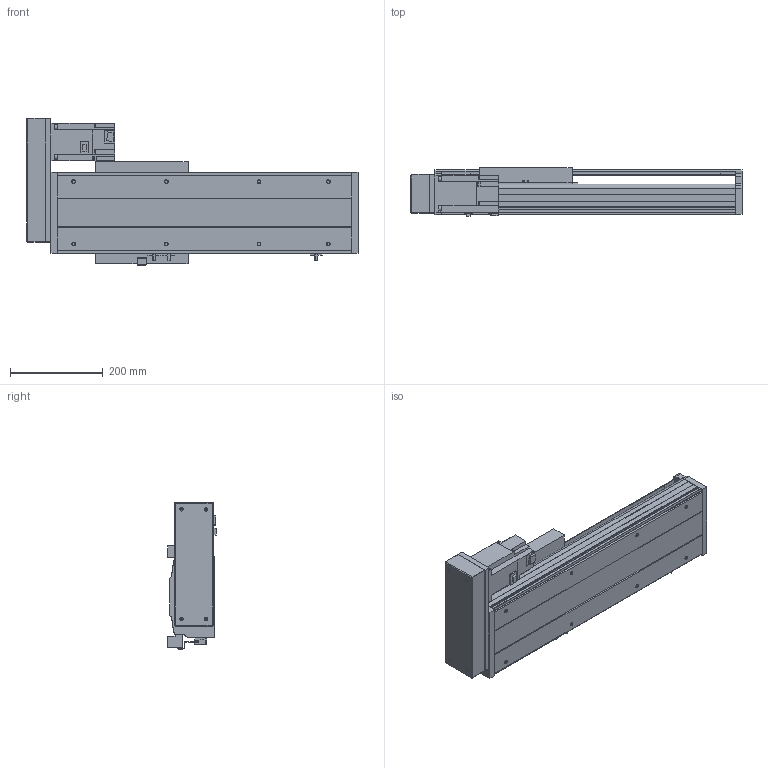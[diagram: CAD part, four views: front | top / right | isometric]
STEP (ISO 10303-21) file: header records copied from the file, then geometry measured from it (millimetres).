
FILE_DESCRIPTION(/* description */ ('STEP AP214'),/* implementation_level */ '2;1');
FILE_NAME(/* name */ 'PSS200-L10-S300-BL-T75-C1-N(0)',/* time_stamp */ '2022-06-06T04:49:44+02:00',/* author */ ('License CC BY-ND 4.0'),/* organization */ ('CADENAS'),/* preprocessor_version */ 'ST-DEVELOPER v18.102',/* originating_system */ 'PARTsolutions',/* authorisation */ ' ');
FILE_SCHEMA (('AUTOMOTIVE_DESIGN {1 0 10303 214 3 1 1}'));
Length unit declared in the file: millimetre
Products named in the file (8): PSS200-L10-S300-BL-T75-C1-N(0); PSS200-S300-BL-N_S; T75-p1; PSS200BL-N_h; PSS200-N_sensor; PSS200-BL-C1-N_sl; PSS200-N_Q; PSS200-S300-BL-C1-N_body
Assembly tree (9 placements, depth 2):
  PSS200-L10-S300-BL-T75-C1-N(0)
    PSS200-S300-BL-N_S
    T75-p1
    PSS200BL-N_h
    PSS200-N_sensor  x3
    PSS200-BL-C1-N_sl
    PSS200-N_Q
    PSS200-S300-BL-C1-N_body
Bounding box: 716.85 x 105.3 x 317.86 mm (x, y, z)
Volume: 6301760.6 mm3; surface area: 1263316.1 mm2
Topology: 9 solids, 9 shells, 596 faces, 1585 edges, 1046 vertices
Faces by surface type: plane 466, cylinder 110, cone 16, sphere 4
Full cylindrical faces by diameter (mm): 4 x2, 4.5 x4, 6 x7, 6.647 x12, 7.4 x4, 8 x8, 10 x6, 25 x1, 40 x1, 67 x1
Entity records: 16509 total; most frequent: CARTESIAN_POINT 2843, DIRECTION 2732, ORIENTED_EDGE 2714, EDGE_CURVE 1357, LINE 1090, VECTOR 1090, VERTEX_POINT 932, AXIS2_PLACEMENT_3D 821
